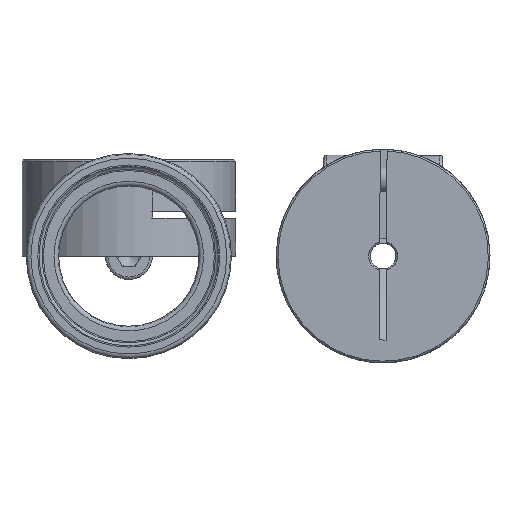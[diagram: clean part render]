
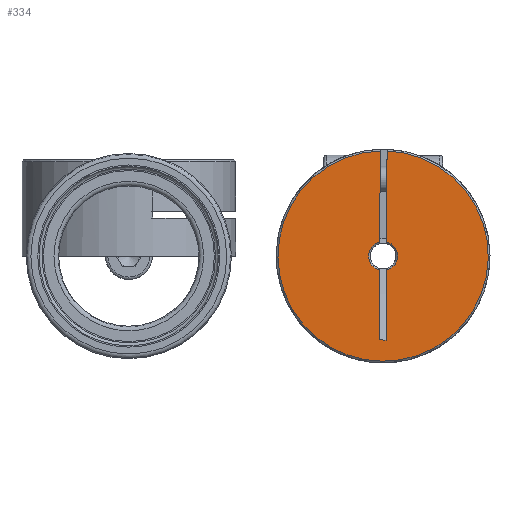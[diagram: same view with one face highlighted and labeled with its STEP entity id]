
A CAD part, left-side view. The second image highlights one B-rep face of the part: STEP entity #334.
In plain terms, the highlighted planar face has unit normal (-1, 0, 0) as drawn and (0, 0, 1) by its records, which use the part's own axes.
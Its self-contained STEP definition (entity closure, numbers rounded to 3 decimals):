
#334 = ADVANCED_FACE( 'NONE', ( #625 ), #626, .T. );
#625 = FACE_OUTER_BOUND( '', #1023, .T. );
#626 = PLANE( '', #1024 );
#1023 = EDGE_LOOP( '', ( #1485, #1486, #1487, #1488, #1489, #1490, #1491, #1492 ) );
#1024 = AXIS2_PLACEMENT_3D( '', #1493, #1494, #1495 );
#1485 = ORIENTED_EDGE( '', *, *, #2200, .F. );
#1486 = ORIENTED_EDGE( '', *, *, #2194, .T. );
#1487 = ORIENTED_EDGE( '', *, *, #2201, .F. );
#1488 = ORIENTED_EDGE( '', *, *, #2202, .T. );
#1489 = ORIENTED_EDGE( '', *, *, #2203, .T. );
#1490 = ORIENTED_EDGE( '', *, *, #2197, .T. );
#1491 = ORIENTED_EDGE( '', *, *, #2170, .T. );
#1492 = ORIENTED_EDGE( '', *, *, #2204, .F. );
#1493 = CARTESIAN_POINT( '', ( 0., 0., 11.25 ) );
#1494 = DIRECTION( '', ( 0., 0., 1. ) );
#1495 = DIRECTION( '', ( 1., 0., 0. ) );
#2170 = EDGE_CURVE( 'NONE', #2380, #2381, #2382, .T. );
#2194 = EDGE_CURVE( 'NONE', #2427, #2424, #2428, .F. );
#2197 = EDGE_CURVE( 'NONE', #2432, #2380, #2433, .F. );
#2200 = EDGE_CURVE( 'NONE', #2427, #2437, #2438, .F. );
#2201 = EDGE_CURVE( 'NONE', #2439, #2424, #2440, .T. );
#2202 = EDGE_CURVE( 'NONE', #2439, #2441, #2442, .T. );
#2203 = EDGE_CURVE( 'NONE', #2441, #2432, #2443, .T. );
#2204 = EDGE_CURVE( 'NONE', #2437, #2381, #2444, .F. );
#2380 = VERTEX_POINT( 'NONE', #2659 );
#2381 = VERTEX_POINT( 'NONE', #2660 );
#2382 = LINE( '', #2661, #2662 );
#2424 = VERTEX_POINT( 'NONE', #2817 );
#2427 = VERTEX_POINT( 'NONE', #2823 );
#2428 = CIRCLE( '', #2824, 1.7 );
#2432 = VERTEX_POINT( 'NONE', #2831 );
#2433 = CIRCLE( '', #2832, 1.7 );
#2437 = VERTEX_POINT( 'NONE', #2839 );
#2438 = LINE( '', #2840, #2841 );
#2439 = VERTEX_POINT( 'NONE', #2842 );
#2440 = LINE( '', #2843, #2844 );
#2441 = VERTEX_POINT( 'NONE', #2845 );
#2442 = CIRCLE( '', #2846, 12.3 );
#2443 = LINE( '', #2847, #2848 );
#2444 = LINE( '', #2849, #2850 );
#2659 = CARTESIAN_POINT( '', ( -1.652, -0.4, 11.25 ) );
#2660 = CARTESIAN_POINT( '', ( -9.815, -0.4, 11.25 ) );
#2661 = CARTESIAN_POINT( '', ( 0., -0.4, 11.25 ) );
#2662 = VECTOR( '', #3083, 1000. );
#2817 = CARTESIAN_POINT( '', ( 1.652, 0.4, 11.25 ) );
#2823 = CARTESIAN_POINT( '', ( -1.652, 0.4, 11.25 ) );
#2824 = AXIS2_PLACEMENT_3D( '', #3125, #3126, #3127 );
#2831 = CARTESIAN_POINT( '', ( 1.652, -0.4, 11.25 ) );
#2832 = AXIS2_PLACEMENT_3D( '', #3131, #3132, #3133 );
#2839 = CARTESIAN_POINT( '', ( -9.815, 0.4, 11.25 ) );
#2840 = CARTESIAN_POINT( '', ( 7., 0.4, 11.25 ) );
#2841 = VECTOR( '', #3137, 1000. );
#2842 = CARTESIAN_POINT( '', ( 12.293, 0.4, 11.25 ) );
#2843 = CARTESIAN_POINT( '', ( 0., 0.4, 11.25 ) );
#2844 = VECTOR( '', #3138, 1000. );
#2845 = CARTESIAN_POINT( '', ( 12.293, -0.4, 11.25 ) );
#2846 = AXIS2_PLACEMENT_3D( '', #3139, #3140, #3141 );
#2847 = CARTESIAN_POINT( '', ( 0., -0.4, 11.25 ) );
#2848 = VECTOR( '', #3142, 1000. );
#2849 = CARTESIAN_POINT( '', ( -9.815, -0.4, 11.25 ) );
#2850 = VECTOR( '', #3143, 1000. );
#3083 = DIRECTION( '', ( -1., 0., 0. ) );
#3125 = CARTESIAN_POINT( '', ( 0., 0., 11.25 ) );
#3126 = DIRECTION( '', ( 0., 0., 1. ) );
#3127 = DIRECTION( '', ( 1., 0., 0. ) );
#3131 = CARTESIAN_POINT( '', ( 0., 0., 11.25 ) );
#3132 = DIRECTION( '', ( 0., 0., 1. ) );
#3133 = DIRECTION( '', ( 1., 0., 0. ) );
#3137 = DIRECTION( '', ( 1., 0., 0. ) );
#3138 = DIRECTION( '', ( -1., 0., 0. ) );
#3139 = CARTESIAN_POINT( '', ( 0., 0., 11.25 ) );
#3140 = DIRECTION( '', ( 0., 0., 1. ) );
#3141 = DIRECTION( '', ( 1., 0., 0. ) );
#3142 = DIRECTION( '', ( -1., 0., 0. ) );
#3143 = DIRECTION( '', ( 0., 1., 0. ) );
